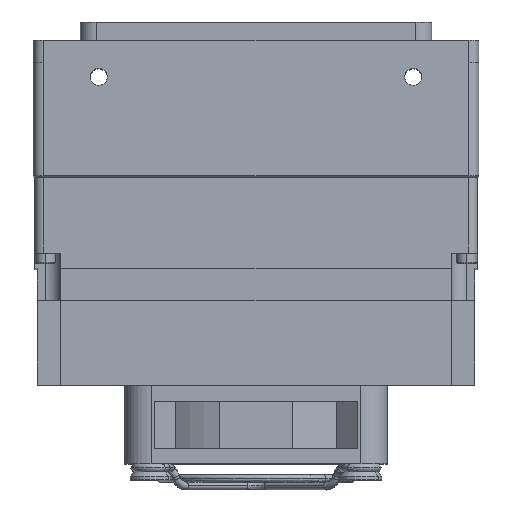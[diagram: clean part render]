
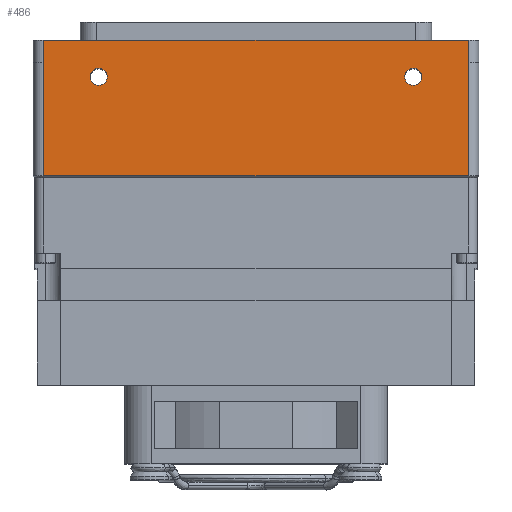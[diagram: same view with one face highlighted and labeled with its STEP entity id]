
A CAD part, top view. The second image highlights one B-rep face of the part: STEP entity #486.
In plain terms, the highlighted planar face has unit normal (0, 0, 1).
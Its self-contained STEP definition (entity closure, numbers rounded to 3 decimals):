
#73 = VERTEX_POINT ( 'NONE', #6349 ) ;
#362 = CIRCLE ( 'NONE', #38737, 1.65 ) ;
#486 = ADVANCED_FACE ( 'NONE', ( #27270, #6864, #33163 ), #42128, .T. ) ;
#824 = DIRECTION ( 'NONE',  ( 1., 0., 0. ) ) ;
#1418 = CARTESIAN_POINT ( 'NONE',  ( -50.5, 43.6, 42.5 ) ) ;
#2098 = AXIS2_PLACEMENT_3D ( 'NONE', #8228, #29379, #34701 ) ;
#2347 = DIRECTION ( 'NONE',  ( 0., 1., 0. ) ) ;
#3492 = CIRCLE ( 'NONE', #33585, 1.65 ) ;
#3842 = VECTOR ( 'NONE', #26817, 1000. ) ;
#4915 = VECTOR ( 'NONE', #41098, 1000. ) ;
#5259 = CARTESIAN_POINT ( 'NONE',  ( -40., 36.6, 42.5 ) ) ;
#5589 = VERTEX_POINT ( 'NONE', #33372 ) ;
#5683 = ORIENTED_EDGE ( 'NONE', *, *, #43622, .T. ) ;
#6066 = CARTESIAN_POINT ( 'NONE',  ( -50.5, 48.93, 42.5 ) ) ;
#6349 = CARTESIAN_POINT ( 'NONE',  ( 30.5, 17.7, 42.5 ) ) ;
#6514 = ORIENTED_EDGE ( 'NONE', *, *, #28356, .T. ) ;
#6864 = FACE_BOUND ( 'NONE', #8057, .T. ) ;
#7952 = CARTESIAN_POINT ( 'NONE',  ( 30.5, 48.93, 42.5 ) ) ;
#8057 = EDGE_LOOP ( 'NONE', ( #15161, #30216 ) ) ;
#8228 = CARTESIAN_POINT ( 'NONE',  ( -10., 48.93, 42.5 ) ) ;
#8578 = CARTESIAN_POINT ( 'NONE',  ( 20., 38.25, 42.5 ) ) ;
#9434 = ORIENTED_EDGE ( 'NONE', *, *, #16779, .T. ) ;
#9654 = VERTEX_POINT ( 'NONE', #20510 ) ;
#9846 = VERTEX_POINT ( 'NONE', #35736 ) ;
#10444 = AXIS2_PLACEMENT_3D ( 'NONE', #22709, #14371, #44450 ) ;
#10539 = DIRECTION ( 'NONE',  ( 0., 0., 1. ) ) ;
#10627 = EDGE_CURVE ( 'NONE', #21282, #9654, #13191, .T. ) ;
#11263 = DIRECTION ( 'NONE',  ( 0., 1., 0. ) ) ;
#12225 = CARTESIAN_POINT ( 'NONE',  ( -50.5, 48.93, 42.5 ) ) ;
#12954 = DIRECTION ( 'NONE',  ( 0., -1., 0. ) ) ;
#13191 = LINE ( 'NONE', #26077, #3842 ) ;
#13591 = ORIENTED_EDGE ( 'NONE', *, *, #21594, .T. ) ;
#13904 = CIRCLE ( 'NONE', #10444, 1.65 ) ;
#14371 = DIRECTION ( 'NONE',  ( 0., 0., 1. ) ) ;
#14606 = EDGE_CURVE ( 'NONE', #18553, #14918, #29125, .T. ) ;
#14918 = VERTEX_POINT ( 'NONE', #8578 ) ;
#15161 = ORIENTED_EDGE ( 'NONE', *, *, #46583, .F. ) ;
#15560 = VECTOR ( 'NONE', #30933, 1000. ) ;
#16674 = VERTEX_POINT ( 'NONE', #17293 ) ;
#16779 = EDGE_CURVE ( 'NONE', #73, #5589, #28349, .T. ) ;
#17293 = CARTESIAN_POINT ( 'NONE',  ( -40., 34.95, 42.5 ) ) ;
#18553 = VERTEX_POINT ( 'NONE', #38372 ) ;
#18977 = CARTESIAN_POINT ( 'NONE',  ( -10., 17.7, 42.5 ) ) ;
#19255 = VERTEX_POINT ( 'NONE', #28879 ) ;
#19674 = EDGE_CURVE ( 'NONE', #9846, #16674, #3492, .T. ) ;
#20433 = DIRECTION ( 'NONE',  ( 0., 1., 0. ) ) ;
#20510 = CARTESIAN_POINT ( 'NONE',  ( 30.5, 43.6, 42.5 ) ) ;
#21282 = VERTEX_POINT ( 'NONE', #1418 ) ;
#21594 = EDGE_CURVE ( 'NONE', #19255, #73, #24993, .T. ) ;
#22633 = ORIENTED_EDGE ( 'NONE', *, *, #29138, .F. ) ;
#22709 = CARTESIAN_POINT ( 'NONE',  ( 20., 36.6, 42.5 ) ) ;
#22724 = EDGE_LOOP ( 'NONE', ( #26491, #22633 ) ) ;
#24993 = LINE ( 'NONE', #18977, #37767 ) ;
#26077 = CARTESIAN_POINT ( 'NONE',  ( -52.5, 43.6, 42.5 ) ) ;
#26437 = LINE ( 'NONE', #6066, #37523 ) ;
#26491 = ORIENTED_EDGE ( 'NONE', *, *, #19674, .F. ) ;
#26817 = DIRECTION ( 'NONE',  ( 1., 0., 0. ) ) ;
#27270 = FACE_BOUND ( 'NONE', #22724, .T. ) ;
#28349 = LINE ( 'NONE', #7952, #4915 ) ;
#28356 = EDGE_CURVE ( 'NONE', #44392, #19255, #26437, .T. ) ;
#28879 = CARTESIAN_POINT ( 'NONE',  ( -50.5, 17.7, 42.5 ) ) ;
#29125 = CIRCLE ( 'NONE', #44308, 1.65 ) ;
#29138 = EDGE_CURVE ( 'NONE', #16674, #9846, #362, .T. ) ;
#29379 = DIRECTION ( 'NONE',  ( 0., 0., 1. ) ) ;
#29551 = EDGE_CURVE ( 'NONE', #21282, #44392, #43802, .T. ) ;
#30212 = DIRECTION ( 'NONE',  ( 0., -1., 0. ) ) ;
#30216 = ORIENTED_EDGE ( 'NONE', *, *, #14606, .F. ) ;
#30933 = DIRECTION ( 'NONE',  ( 0., 1., 0. ) ) ;
#31679 = DIRECTION ( 'NONE',  ( 0., 0., 1. ) ) ;
#32375 = EDGE_LOOP ( 'NONE', ( #39255, #35203, #6514, #13591, #9434, #5683 ) ) ;
#33163 = FACE_OUTER_BOUND ( 'NONE', #32375, .T. ) ;
#33372 = CARTESIAN_POINT ( 'NONE',  ( 30.5, 39.4, 42.5 ) ) ;
#33374 = CARTESIAN_POINT ( 'NONE',  ( 20., 36.6, 42.5 ) ) ;
#33585 = AXIS2_PLACEMENT_3D ( 'NONE', #38448, #10539, #20433 ) ;
#34701 = DIRECTION ( 'NONE',  ( -1., 0., 0. ) ) ;
#35203 = ORIENTED_EDGE ( 'NONE', *, *, #29551, .T. ) ;
#35736 = CARTESIAN_POINT ( 'NONE',  ( -40., 38.25, 42.5 ) ) ;
#37523 = VECTOR ( 'NONE', #30212, 1000. ) ;
#37767 = VECTOR ( 'NONE', #824, 1000. ) ;
#38372 = CARTESIAN_POINT ( 'NONE',  ( 20., 34.95, 42.5 ) ) ;
#38448 = CARTESIAN_POINT ( 'NONE',  ( -40., 36.6, 42.5 ) ) ;
#38566 = DIRECTION ( 'NONE',  ( 0., 0., 1. ) ) ;
#38737 = AXIS2_PLACEMENT_3D ( 'NONE', #5259, #31679, #11263 ) ;
#39127 = LINE ( 'NONE', #40630, #15560 ) ;
#39255 = ORIENTED_EDGE ( 'NONE', *, *, #10627, .F. ) ;
#40630 = CARTESIAN_POINT ( 'NONE',  ( 30.5, 48.93, 42.5 ) ) ;
#41098 = DIRECTION ( 'NONE',  ( 0., 1., 0. ) ) ;
#42128 = PLANE ( 'NONE',  #2098 ) ;
#43622 = EDGE_CURVE ( 'NONE', #5589, #9654, #39127, .T. ) ;
#43802 = LINE ( 'NONE', #12225, #45832 ) ;
#44251 = CARTESIAN_POINT ( 'NONE',  ( -50.5, 39.4, 42.5 ) ) ;
#44308 = AXIS2_PLACEMENT_3D ( 'NONE', #33374, #38566, #2347 ) ;
#44392 = VERTEX_POINT ( 'NONE', #44251 ) ;
#44450 = DIRECTION ( 'NONE',  ( 0., 1., 0. ) ) ;
#45832 = VECTOR ( 'NONE', #12954, 1000. ) ;
#46583 = EDGE_CURVE ( 'NONE', #14918, #18553, #13904, .T. ) ;
